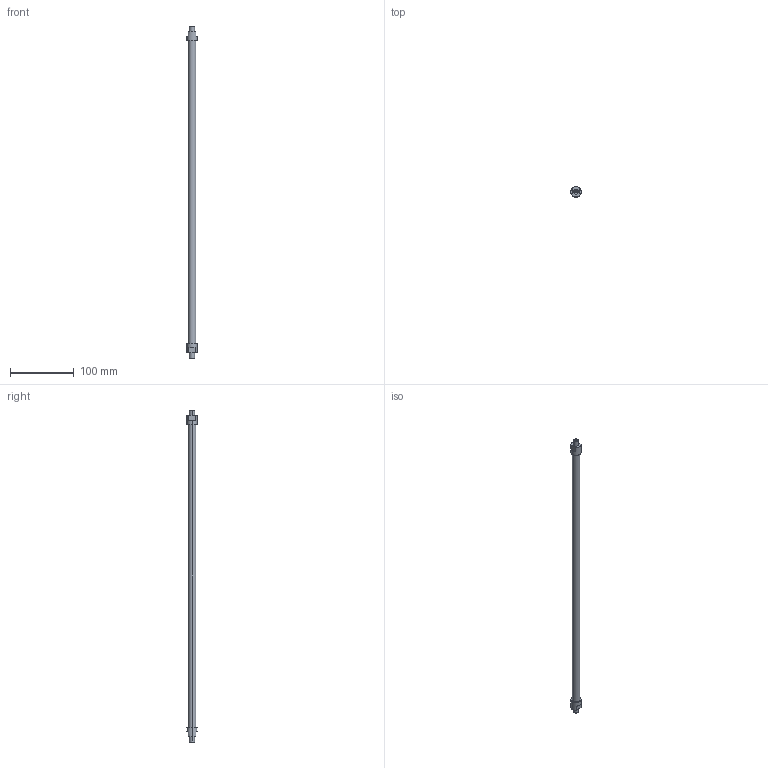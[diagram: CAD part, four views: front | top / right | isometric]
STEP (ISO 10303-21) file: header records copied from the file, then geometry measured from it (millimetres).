
FILE_DESCRIPTION(('STEP AP214'),'1');
FILE_NAME('ETT-R025G515.stp','2015-02-03T08:48:14',(' '),(' '),'Spatial InterOp 3D',' ',' ');
FILE_SCHEMA(('automotive_design'));
Length unit declared in the file: metre
Products named in the file (2): 1; 2
Bounding box: 16 x 16 x 522 mm (x, y, z)
Volume: 59995.8 mm3; surface area: 20785.3 mm2
Topology: 1 solids, 4 shells, 33 faces, 78 edges, 56 vertices
Faces by surface type: plane 17, cylinder 16
Entity records: 1292 total; most frequent: DIRECTION 192, CARTESIAN_POINT 169, ORIENTED_EDGE 144, AXIS2_PLACEMENT_3D 79, EDGE_CURVE 78, VERTEX_POINT 56, CIRCLE 44, EDGE_LOOP 40
